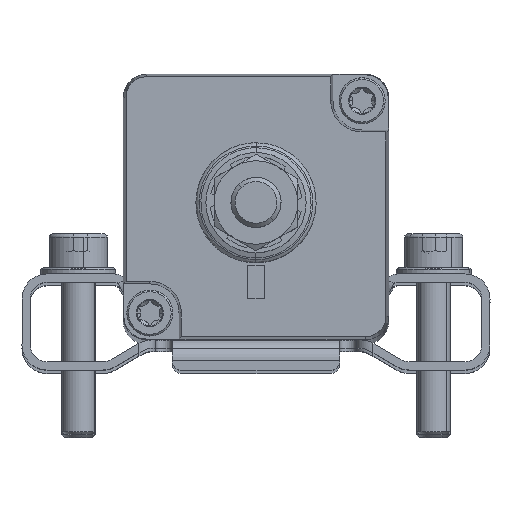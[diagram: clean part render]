
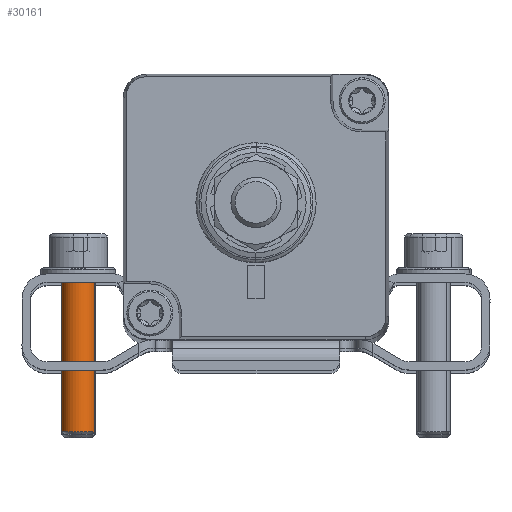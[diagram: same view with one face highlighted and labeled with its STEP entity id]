
A CAD part, top view. The second image highlights one B-rep face of the part: STEP entity #30161.
In plain terms, the highlighted cylindrical face has radius 2 mm (diameter 4 mm), a partial arc.
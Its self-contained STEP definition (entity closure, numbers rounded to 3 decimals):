
#30056 = EDGE_CURVE ( 'NONE', #30057, #30113, #37366, .T. ) ;
#30057 = VERTEX_POINT ( 'NONE', #37426 ) ;
#30083 = ORIENTED_EDGE ( 'NONE', *, *, #30099, .F. ) ;
#30088 = VERTEX_POINT ( 'NONE', #37506 ) ;
#30090 = EDGE_CURVE ( 'NONE', #30088, #30106, #37505, .T. ) ;
#30099 = EDGE_CURVE ( 'NONE', #30057, #30100, #37526, .T. ) ;
#30100 = VERTEX_POINT ( 'NONE', #37522 ) ;
#30106 = VERTEX_POINT ( 'NONE', #37565 ) ;
#30108 = EDGE_CURVE ( 'NONE', #30113, #30106, #37563, .T. ) ;
#30113 = VERTEX_POINT ( 'NONE', #37596 ) ;
#30140 = ORIENTED_EDGE ( 'NONE', *, *, #30056, .T. ) ;
#30141 = ORIENTED_EDGE ( 'NONE', *, *, #30108, .T. ) ;
#30142 = ORIENTED_EDGE ( 'NONE', *, *, #30090, .F. ) ;
#30143 = ORIENTED_EDGE ( 'NONE', *, *, #30160, .F. ) ;
#30160 = EDGE_CURVE ( 'NONE', #30100, #30088, #37750, .T. ) ;
#30161 = ADVANCED_FACE ( 'NONE', ( #37739 ), #37781, .T. ) ;
#30162 = EDGE_LOOP ( 'NONE', ( #30083, #30140, #30141, #30142, #30143 ) ) ;
#37357 = DIRECTION ( 'NONE',  ( -0.983, 0., 0.184 ) ) ;
#37358 = DIRECTION ( 'NONE',  ( 0., -1., 0. ) ) ;
#37359 = CARTESIAN_POINT ( 'NONE',  ( -21.25, -7.178, 116.25 ) ) ;
#37360 = AXIS2_PLACEMENT_3D ( 'NONE', #37359, #37358, #37357 ) ;
#37366 = CIRCLE ( 'NONE', #37360, 2. ) ;
#37426 = CARTESIAN_POINT ( 'NONE',  ( -19.284, -7.178, 115.881 ) ) ;
#37501 = DIRECTION ( 'NONE',  ( -0.983, 0., 0.184 ) ) ;
#37502 = DIRECTION ( 'NONE',  ( 0., -1., 0. ) ) ;
#37503 = CARTESIAN_POINT ( 'NONE',  ( -21.25, -26.628, 116.25 ) ) ;
#37504 = AXIS2_PLACEMENT_3D ( 'NONE', #37503, #37502, #37501 ) ;
#37505 = CIRCLE ( 'NONE', #37504, 2. ) ;
#37506 = CARTESIAN_POINT ( 'NONE',  ( -20.881, -26.628, 118.216 ) ) ;
#37522 = CARTESIAN_POINT ( 'NONE',  ( -19.284, -26.628, 115.881 ) ) ;
#37523 = DIRECTION ( 'NONE',  ( 0., -1., 0. ) ) ;
#37524 = VECTOR ( 'NONE', #37523, 1000. ) ;
#37525 = CARTESIAN_POINT ( 'NONE',  ( -19.284, -7.178, 115.881 ) ) ;
#37526 = LINE ( 'NONE', #37525, #37524 ) ;
#37559 = DIRECTION ( 'NONE',  ( 0., -1., 0. ) ) ;
#37560 = VECTOR ( 'NONE', #37559, 1000. ) ;
#37562 = CARTESIAN_POINT ( 'NONE',  ( -23.216, -7.178, 116.619 ) ) ;
#37563 = LINE ( 'NONE', #37562, #37560 ) ;
#37565 = CARTESIAN_POINT ( 'NONE',  ( -23.216, -26.628, 116.619 ) ) ;
#37596 = CARTESIAN_POINT ( 'NONE',  ( -23.216, -7.178, 116.619 ) ) ;
#37739 = FACE_OUTER_BOUND ( 'NONE', #30162, .T. ) ;
#37740 = DIRECTION ( 'NONE',  ( -0.983, 0., 0.184 ) ) ;
#37741 = DIRECTION ( 'NONE',  ( 0., -1., 0. ) ) ;
#37742 = CARTESIAN_POINT ( 'NONE',  ( -21.25, -26.628, 116.25 ) ) ;
#37743 = AXIS2_PLACEMENT_3D ( 'NONE', #37742, #37741, #37740 ) ;
#37750 = CIRCLE ( 'NONE', #37743, 2. ) ;
#37775 = DIRECTION ( 'NONE',  ( -0.983, 0., 0.184 ) ) ;
#37779 = DIRECTION ( 'NONE',  ( 0., -1., 0. ) ) ;
#37780 = AXIS2_PLACEMENT_3D ( 'NONE', #37785, #37779, #37775 ) ;
#37781 = CYLINDRICAL_SURFACE ( 'NONE', #37780, 2. ) ;
#37785 = CARTESIAN_POINT ( 'NONE',  ( -21.25, -7.178, 116.25 ) ) ;
